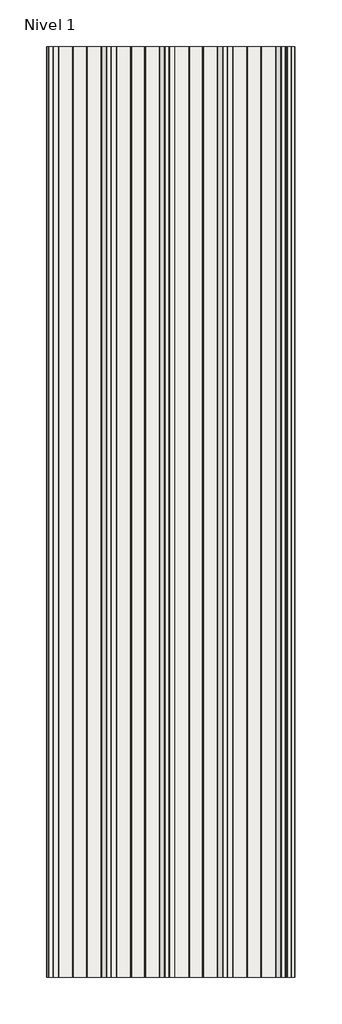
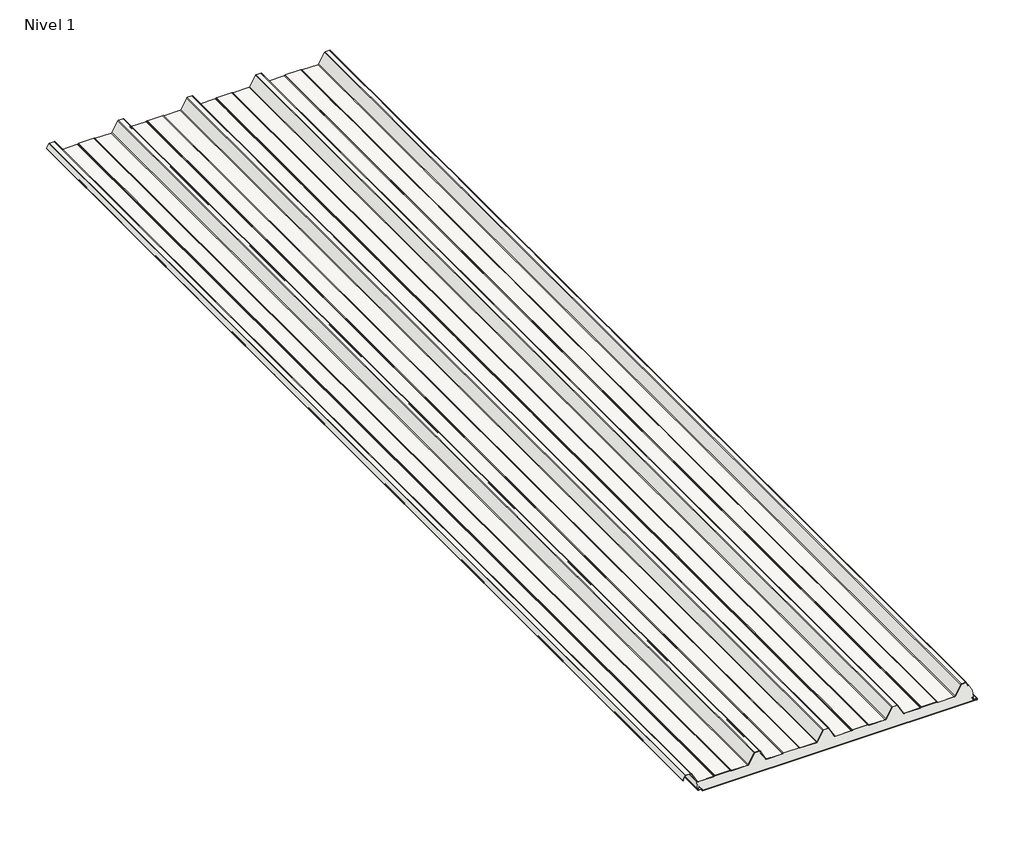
# One storey: 1 slab.
"""IFC4 building model written with IfcOpenShell, lengths in millimetres."""

from ifc_helpers import new_model, si_unit, origin, place, context, project, spatial, transform, mapped, element, save
from components import hi_quadcore_2_0_xt_40_liso_grecada_2684bdf8

model = new_model("IFC4")

# Units and contexts
model_context = context("Model", 3, world=origin())
ifc_project = project(units=[si_unit("LENGTHUNIT", "METRE", prefix="MILLI")], contexts=[model_context])

# Site, building, storey
site = spatial("IfcSite", under=ifc_project)
building = spatial("IfcBuilding", under=site)
storey = spatial("IfcBuildingStorey", under=building, Name="Nivel 1", Elevation=0.0)

# Slab
placement = place(None, origin())
hi_quadcore_2_0_xt_40_liso_grecada_shape = hi_quadcore_2_0_xt_40_liso_grecada_2684bdf8(model_context)
element("IfcSlab", 1, ObjectType="Panel_HI_QuadCore 2.0 XT-XT DUAL_liso-grecada : HI-Quadcore 2.0 XT 40 liso-grecada", at=placement, inside=storey, context=model_context, shape_type="MappedRepresentation", body=[
    mapped(hi_quadcore_2_0_xt_40_liso_grecada_shape, transform((179.0307103, 435.507424, 0.0), x_axis=(1.0, 0.0, 0.0), y_axis=(0.0, 1.0, 0.0), z_axis=(0.0, 0.0, 1.0))),
])

save(model, "model.ifc")
